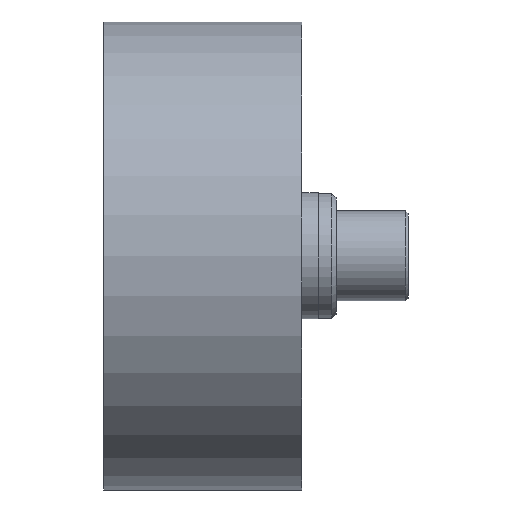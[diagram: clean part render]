
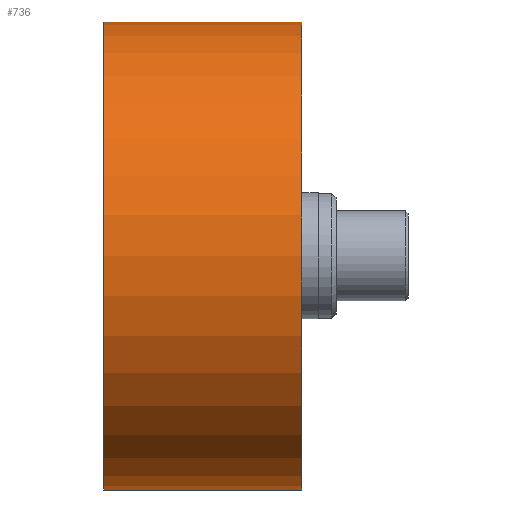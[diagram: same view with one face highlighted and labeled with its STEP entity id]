
A CAD part, top view. The second image highlights one B-rep face of the part: STEP entity #736.
In plain terms, the highlighted cylindrical face has radius 26 mm (diameter 52 mm), a partial arc.
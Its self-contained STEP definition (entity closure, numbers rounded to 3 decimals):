
#7=CARTESIAN_POINT('',(0.,0.,0.));
#8=DIRECTION('',(1.,0.,0.));
#9=DIRECTION('',(0.,1.,0.));
#10=AXIS2_PLACEMENT_3D('',#7,#8,#9);
#22=DIRECTION('',(1.,0.,0.));
#23=VECTOR('',#22,22.);
#24=CARTESIAN_POINT('',(0.,-26.,0.));
#25=LINE('',#24,#23);
#26=DIRECTION('',(1.,0.,0.));
#27=VECTOR('',#26,22.);
#28=CARTESIAN_POINT('',(0.,26.,0.));
#29=LINE('',#28,#27);
#35=CARTESIAN_POINT('',(22.,0.,0.));
#36=DIRECTION('',(1.,0.,0.));
#37=DIRECTION('',(0.,1.,0.));
#38=AXIS2_PLACEMENT_3D('',#35,#36,#37);
#575=CARTESIAN_POINT('',(0.,-26.,0.));
#576=CARTESIAN_POINT('',(0.,26.,0.));
#577=VERTEX_POINT('',#575);
#578=VERTEX_POINT('',#576);
#579=CARTESIAN_POINT('',(22.,-26.,0.));
#580=CARTESIAN_POINT('',(22.,26.,0.));
#581=VERTEX_POINT('',#579);
#582=VERTEX_POINT('',#580);
#724=CARTESIAN_POINT('',(0.,0.,0.));
#725=DIRECTION('',(1.,0.,0.));
#726=DIRECTION('',(0.,-1.,0.));
#727=AXIS2_PLACEMENT_3D('',#724,#725,#726);
#728=CYLINDRICAL_SURFACE('',#727,26.);
#729=ORIENTED_EDGE('',*,*,#698,.F.);
#730=ORIENTED_EDGE('',*,*,#719,.T.);
#732=ORIENTED_EDGE('',*,*,#731,.T.);
#733=ORIENTED_EDGE('',*,*,#715,.F.);
#734=EDGE_LOOP('',(#729,#730,#732,#733));
#735=FACE_OUTER_BOUND('',#734,.F.);
#736=ADVANCED_FACE('',(#735),#728,.T.);
#11=CIRCLE('',#10,26.);
#39=CIRCLE('',#38,26.);
#698=EDGE_CURVE('',#578,#577,#11,.T.);
#715=EDGE_CURVE('',#577,#581,#25,.T.);
#719=EDGE_CURVE('',#578,#582,#29,.T.);
#731=EDGE_CURVE('',#582,#581,#39,.T.);
